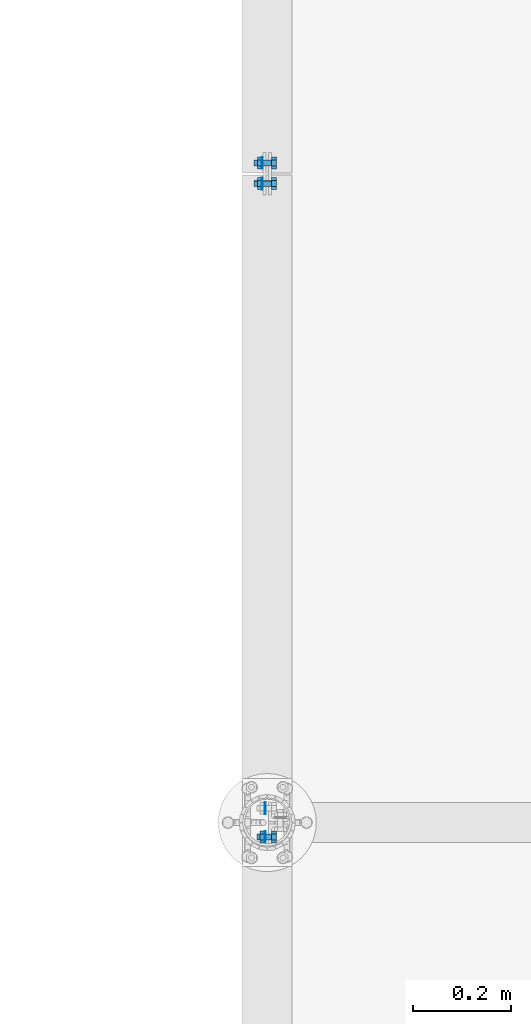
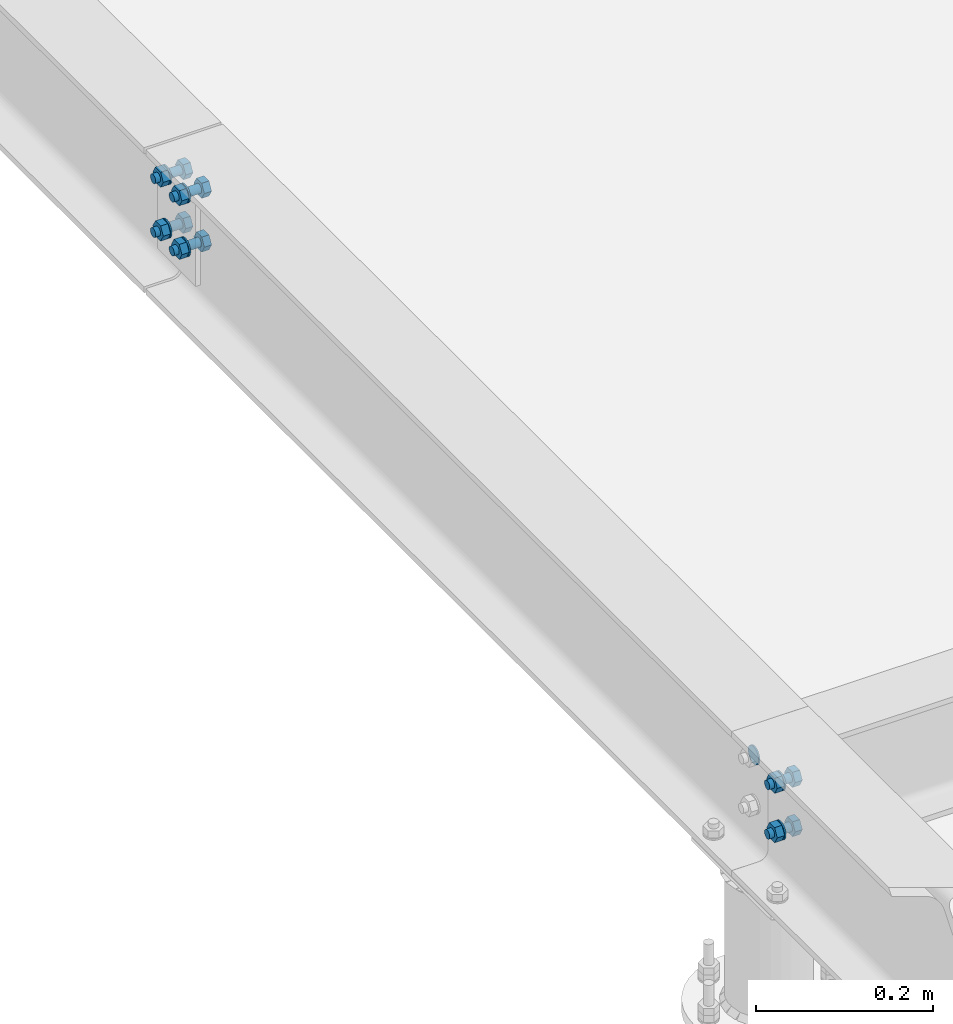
# One storey, part 27 of 84: 33 mechanical fasteners.
"""IFC4 building model written with IfcOpenShell, lengths in metres."""

from ifc_helpers import new_model, si_unit, frame, origin_with_axes, place, context, project, spatial, polyline, outline, extrude, type_object, element, save


model = new_model("IFC4")

# Units and contexts
model_context = context("Model", 3, precision=1e-05, world=origin_with_axes())
ifc_project = project(units=[si_unit("LENGTHUNIT", "METRE"), si_unit("AREAUNIT", "SQUARE_METRE"), si_unit("VOLUMEUNIT", "CUBIC_METRE"), si_unit("MASSUNIT", "GRAM", prefix="KILO"), si_unit("TIMEUNIT", "SECOND"), si_unit("PLANEANGLEUNIT", "RADIAN"), si_unit("SOLIDANGLEUNIT", "STERADIAN"), si_unit("THERMODYNAMICTEMPERATUREUNIT", "DEGREE_CELSIUS")], contexts=[model_context])

# Site, building, storey
placement_1 = place(None, origin_with_axes())
site = spatial("IfcSite", under=ifc_project, at=placement_1, Name="Italia", CompositionType="ELEMENT")
building = spatial("IfcBuilding", under=site, at=placement_1, Name="Tettoia", CompositionType="ELEMENT")
storey_placement = place(None, frame((0.0, 0.0, 4.199999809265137), z_axis=(0.0, 0.0, 1.0), x_axis=(1.0, 0.0, 0.0)))
storey = spatial("IfcBuildingStorey", under=building, at=storey_placement, Name="Storey 1", CompositionType="ELEMENT", Elevation=4.199999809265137)

# Mechanical fasteners
mechanical_fastener_type_1 = type_object("IfcMechanicalFastenerType", Name="Collegamento 0103_0104", PredefinedType="BOLT")
placement_2 = place(placement_1, origin_with_axes())
mechanical_fastener_1_placement = place(placement_2, origin_with_axes())
element("IfcMechanicalFastener", 1, at=mechanical_fastener_1_placement, inside=storey, type_object=mechanical_fastener_type_1, Name="Collegamento 0103_0104", NominalDiameter=0.024, context=model_context, shape_type="SweptSolid", body=[
    extrude(outline(polyline([(0.0, 0.0), (-0.000409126, -0.00310564), (-0.00160789, -0.00600004), (-0.00351477, -0.00848532), (-0.00600004, -0.0103922), (-0.00889444, -0.011591), (-0.0120001, -0.0120001), (-0.0151057, -0.011591), (-0.0180001, -0.0103922), (-0.0204854, -0.00848532), (-0.0223923, -0.00600004), (-0.023591, -0.00310564), (-0.0240002, 0.0), (-0.023591, 0.00310564), (-0.0223923, 0.00600004), (-0.0204854, 0.00848532), (-0.0180001, 0.0103922), (-0.0151057, 0.011591), (-0.0120001, 0.0120001), (-0.00889444, 0.011591), (-0.00600004, 0.0103922), (-0.00351477, 0.00848532), (-0.00160789, 0.00600004), (-0.000409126, 0.00310564), (0.0, 0.0)])), frame((8.2852, 4.6913, 4.334), z_axis=(1.0, 0.0, 0.0), x_axis=(0.0, 1.0, 0.0)), (0.0, 0.0, 1.0), 0.00199986),
])
mechanical_fastener_type_2 = type_object("IfcMechanicalFastenerType", Name="Collegamento 0103_0104", PredefinedType="BOLT")
mechanical_fastener_2_placement = place(placement_2, origin_with_axes())
element("IfcMechanicalFastener", 2, at=mechanical_fastener_2_placement, inside=storey, type_object=mechanical_fastener_type_2, Name="Collegamento 0103_0104", NominalDiameter=0.0119996, context=model_context, shape_type="SweptSolid", body=[
    extrude(outline(polyline([(0.0, 0.0), (-0.0119996, 0.0), (-0.0179996, 0.0103922), (-0.0119996, 0.0207844), (0.0, 0.0207844), (0.00600004, 0.0103922), (0.0, 0.0)])), frame((8.3084, 4.6147, 4.25561), z_axis=(-1.0, 0.0, 0.0), x_axis=(0.0, -1.0, 0.0)), (0.0, 0.0, 1.0), 0.00960064),
])
mechanical_fastener_type_3 = type_object("IfcMechanicalFastenerType", Name="Collegamento 0103_0104", PredefinedType="BOLT")
mechanical_fastener_3_placement = place(placement_2, origin_with_axes())
element("IfcMechanicalFastener", 3, at=mechanical_fastener_3_placement, inside=storey, type_object=mechanical_fastener_type_3, Name="Collegamento 0103_0104", NominalDiameter=0.012, context=model_context, shape_type="SweptSolid", body=[
    extrude(outline(polyline([(0.0, 0.0), (-0.000204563, -0.00155306), (-0.000803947, -0.00299978), (-0.00175762, -0.00424242), (-0.00300026, -0.00519609), (-0.00444698, -0.00579548), (-0.00600004, -0.00600004), (-0.0075531, -0.00579548), (-0.00899982, -0.00519609), (-0.0102425, -0.00424242), (-0.0111961, -0.00299978), (-0.0117955, -0.00155306), (-0.0120001, 0.0), (-0.0117955, 0.00155306), (-0.0111961, 0.00299978), (-0.0102425, 0.00424242), (-0.00899982, 0.00519609), (-0.0075531, 0.00579548), (-0.00600004, 0.00600004), (-0.00444698, 0.00579548), (-0.00300026, 0.00519609), (-0.00175762, 0.00424242), (-0.000803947, 0.00299978), (-0.000204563, 0.00155306), (0.0, 0.0)])), frame((8.2988, 4.6147, 4.266), z_axis=(-1.0, 0.0, 0.0), x_axis=(0.0, -1.0, 0.0)), (0.0, 0.0, 1.0), 0.0295992),
])
mechanical_fastener_type_4 = type_object("IfcMechanicalFastenerType", Name="Collegamento 0103_0104", PredefinedType="BOLT")
mechanical_fastener_4_placement = place(placement_2, origin_with_axes())
element("IfcMechanicalFastener", 4, at=mechanical_fastener_4_placement, inside=storey, type_object=mechanical_fastener_type_4, Name="Collegamento 0103_0104", NominalDiameter=0.0119996, context=model_context, shape_type="SweptSolid", body=[
    extrude(outline(polyline([(0.0, 0.0), (-0.0119996, 0.0), (-0.0179996, 0.0103922), (-0.0119996, 0.0207844), (0.0, 0.0207844), (0.00600004, 0.0103922), (0.0, 0.0)])), frame((8.2852, 4.6147, 4.25561), z_axis=(-1.0, 0.0, 0.0), x_axis=(0.0, -1.0, 0.0)), (0.0, 0.0, 1.0), 0.00960064),
])
mechanical_fastener_type_5 = type_object("IfcMechanicalFastenerType", Name="Collegamento 0103_0104", PredefinedType="BOLT")
mechanical_fastener_5_placement = place(placement_2, origin_with_axes())
element("IfcMechanicalFastener", 5, at=mechanical_fastener_5_placement, inside=storey, type_object=mechanical_fastener_type_5, Name="Collegamento 0103_0104", NominalDiameter=0.024, context=model_context, shape_type="SweptSolid", body=[
    extrude(outline(polyline([(0.0, 0.0), (-0.000409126, -0.00310564), (-0.00160789, -0.00600004), (-0.00351477, -0.00848532), (-0.00600004, -0.0103922), (-0.00889444, -0.011591), (-0.0120001, -0.0120001), (-0.0151057, -0.011591), (-0.0180001, -0.0103922), (-0.0204854, -0.00848532), (-0.0223923, -0.00600004), (-0.023591, -0.00310564), (-0.0240002, 0.0), (-0.023591, 0.00310564), (-0.0223923, 0.00600004), (-0.0204854, 0.00848532), (-0.0180001, 0.0103922), (-0.0151057, 0.011591), (-0.0120001, 0.0120001), (-0.00889444, 0.011591), (-0.00600004, 0.0103922), (-0.00351477, 0.00848532), (-0.00160789, 0.00600004), (-0.000409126, 0.00310564), (0.0, 0.0)])), frame((8.2872, 4.6087, 4.266), z_axis=(-1.0, 0.0, 0.0), x_axis=(0.0, -1.0, 0.0)), (0.0, 0.0, 1.0), 0.00199986),
])
mechanical_fastener_type_6 = type_object("IfcMechanicalFastenerType", Name="Collegamento 0103_0104", PredefinedType="BOLT")
mechanical_fastener_6_placement = place(placement_2, origin_with_axes())
element("IfcMechanicalFastener", 6, at=mechanical_fastener_6_placement, inside=storey, type_object=mechanical_fastener_type_6, Name="Collegamento 0103_0104", NominalDiameter=0.0119996, context=model_context, shape_type="SweptSolid", body=[
    extrude(outline(polyline([(0.0, 0.0), (-0.0119996, 0.0), (-0.0179996, 0.0103922), (-0.0119996, 0.0207844), (0.0, 0.0207844), (0.00600004, 0.0103922), (0.0, 0.0)])), frame((8.3084, 4.6147, 4.32361), z_axis=(-1.0, 0.0, 0.0), x_axis=(0.0, -1.0, 0.0)), (0.0, 0.0, 1.0), 0.00960064),
])
mechanical_fastener_type_7 = type_object("IfcMechanicalFastenerType", Name="Collegamento 0103_0104", PredefinedType="BOLT")
mechanical_fastener_7_placement = place(placement_2, origin_with_axes())
element("IfcMechanicalFastener", 7, at=mechanical_fastener_7_placement, inside=storey, type_object=mechanical_fastener_type_7, Name="Collegamento 0103_0104", NominalDiameter=0.012, context=model_context, shape_type="SweptSolid", body=[
    extrude(outline(polyline([(0.0, 0.0), (-0.000204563, -0.00155306), (-0.000803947, -0.00299978), (-0.00175762, -0.00424242), (-0.00300026, -0.00519609), (-0.00444698, -0.00579548), (-0.00600004, -0.00600004), (-0.0075531, -0.00579548), (-0.00899982, -0.00519609), (-0.0102425, -0.00424242), (-0.0111961, -0.00299978), (-0.0117955, -0.00155306), (-0.0120001, 0.0), (-0.0117955, 0.00155306), (-0.0111961, 0.00299978), (-0.0102425, 0.00424242), (-0.00899982, 0.00519609), (-0.0075531, 0.00579548), (-0.00600004, 0.00600004), (-0.00444698, 0.00579548), (-0.00300026, 0.00519609), (-0.00175762, 0.00424242), (-0.000803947, 0.00299978), (-0.000204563, 0.00155306), (0.0, 0.0)])), frame((8.2988, 4.6147, 4.334), z_axis=(-1.0, 0.0, 0.0), x_axis=(0.0, -1.0, 0.0)), (0.0, 0.0, 1.0), 0.0295992),
])
mechanical_fastener_type_8 = type_object("IfcMechanicalFastenerType", Name="Collegamento 0103_0104", PredefinedType="BOLT")
mechanical_fastener_8_placement = place(placement_2, origin_with_axes())
element("IfcMechanicalFastener", 8, at=mechanical_fastener_8_placement, inside=storey, type_object=mechanical_fastener_type_8, Name="Collegamento 0103_0104", NominalDiameter=0.0119996, context=model_context, shape_type="SweptSolid", body=[
    extrude(outline(polyline([(0.0, 0.0), (-0.0119996, 0.0), (-0.0179996, 0.0103922), (-0.0119996, 0.0207844), (0.0, 0.0207844), (0.00600004, 0.0103922), (0.0, 0.0)])), frame((8.2852, 4.6147, 4.32361), z_axis=(-1.0, 0.0, 0.0), x_axis=(0.0, -1.0, 0.0)), (0.0, 0.0, 1.0), 0.00960064),
])
mechanical_fastener_type_9 = type_object("IfcMechanicalFastenerType", Name="Collegamento 0103_0104", PredefinedType="BOLT")
mechanical_fastener_9_placement = place(placement_2, origin_with_axes())
element("IfcMechanicalFastener", 9, at=mechanical_fastener_9_placement, inside=storey, type_object=mechanical_fastener_type_9, Name="Collegamento 0103_0104", NominalDiameter=0.024, context=model_context, shape_type="SweptSolid", body=[
    extrude(outline(polyline([(0.0, 0.0), (-0.000409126, -0.00310564), (-0.00160789, -0.00600004), (-0.00351477, -0.00848532), (-0.00600004, -0.0103922), (-0.00889444, -0.011591), (-0.0120001, -0.0120001), (-0.0151057, -0.011591), (-0.0180001, -0.0103922), (-0.0204854, -0.00848532), (-0.0223923, -0.00600004), (-0.023591, -0.00310564), (-0.0240002, 0.0), (-0.023591, 0.00310564), (-0.0223923, 0.00600004), (-0.0204854, 0.00848532), (-0.0180001, 0.0103922), (-0.0151057, 0.011591), (-0.0120001, 0.0120001), (-0.00889444, 0.011591), (-0.00600004, 0.0103922), (-0.00351477, 0.00848532), (-0.00160789, 0.00600004), (-0.000409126, 0.00310564), (0.0, 0.0)])), frame((8.2872, 4.6087, 4.334), z_axis=(-1.0, 0.0, 0.0), x_axis=(0.0, -1.0, 0.0)), (0.0, 0.0, 1.0), 0.00199986),
])
mechanical_fastener_type_10 = type_object("IfcMechanicalFastenerType", Name="Collegamento 0118_0103", PredefinedType="BOLT")
mechanical_fastener_10_placement = place(placement_2, origin_with_axes())
element("IfcMechanicalFastener", 10, at=mechanical_fastener_10_placement, inside=storey, type_object=mechanical_fastener_type_10, Name="Collegamento 0118_0103", NominalDiameter=0.0119997, context=model_context, shape_type="SweptSolid", body=[
    extrude(outline(polyline([(0.0, 0.0), (0.0120001, 0.0), (0.0179996, -0.0103922), (0.0120001, -0.0207849), (0.0, -0.0207849), (-0.00600004, -0.0103922), (0.0, 0.0)])), frame((8.2988, 5.947, 4.34739), z_axis=(1.0, 0.0, 0.0), x_axis=(0.0, 1.0, 0.0)), (0.0, 0.0, 1.0), 0.00960064),
])
mechanical_fastener_type_11 = type_object("IfcMechanicalFastenerType", Name="Collegamento 0118_0103", PredefinedType="BOLT")
mechanical_fastener_11_placement = place(placement_2, origin_with_axes())
element("IfcMechanicalFastener", 11, at=mechanical_fastener_11_placement, inside=storey, type_object=mechanical_fastener_type_11, Name="Collegamento 0118_0103", NominalDiameter=0.012, context=model_context, shape_type="SweptSolid", body=[
    extrude(outline(polyline([(0.0, 0.0), (-0.000204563, -0.00155306), (-0.000803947, -0.00299978), (-0.00175762, -0.00424242), (-0.00300026, -0.00519609), (-0.00444698, -0.00579548), (-0.00600004, -0.00600004), (-0.0075531, -0.00579548), (-0.00899982, -0.00519609), (-0.0102425, -0.00424242), (-0.0111961, -0.00299978), (-0.0117955, -0.00155306), (-0.0120001, 0.0), (-0.0117955, 0.00155306), (-0.0111961, 0.00299978), (-0.0102425, 0.00424242), (-0.00899982, 0.00519609), (-0.0075531, 0.00579548), (-0.00600004, 0.00600004), (-0.00444698, 0.00579548), (-0.00300026, 0.00519609), (-0.00175762, 0.00424242), (-0.000803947, 0.00299978), (-0.000204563, 0.00155306), (0.0, 0.0)])), frame((8.2632, 5.959, 4.337), z_axis=(1.0, 0.0, 0.0), x_axis=(0.0, 1.0, 0.0)), (0.0, 0.0, 1.0), 0.0355997),
])
mechanical_fastener_type_12 = type_object("IfcMechanicalFastenerType", Name="Collegamento 0118_0103", PredefinedType="BOLT")
mechanical_fastener_12_placement = place(placement_2, origin_with_axes())
element("IfcMechanicalFastener", 12, at=mechanical_fastener_12_placement, inside=storey, type_object=mechanical_fastener_type_12, Name="Collegamento 0118_0103", NominalDiameter=0.0119997, context=model_context, shape_type="SweptSolid", body=[
    extrude(outline(polyline([(0.0, 0.0), (0.0120001, 0.0), (0.0179996, -0.0103922), (0.0120001, -0.0207849), (0.0, -0.0207849), (-0.00600004, -0.0103922), (0.0, 0.0)])), frame((8.2696, 5.947, 4.34739), z_axis=(1.0, 0.0, 0.0), x_axis=(0.0, 1.0, 0.0)), (0.0, 0.0, 1.0), 0.00959969),
])
mechanical_fastener_type_13 = type_object("IfcMechanicalFastenerType", Name="Collegamento 0118_0103", PredefinedType="BOLT")
mechanical_fastener_13_placement = place(placement_2, origin_with_axes())
element("IfcMechanicalFastener", 13, at=mechanical_fastener_13_placement, inside=storey, type_object=mechanical_fastener_type_13, Name="Collegamento 0118_0103", NominalDiameter=0.024, context=model_context, shape_type="SweptSolid", body=[
    extrude(outline(polyline([(0.0, 0.0), (-0.000409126, -0.00310564), (-0.00160789, -0.00600004), (-0.00351477, -0.00848532), (-0.00600004, -0.0103922), (-0.00889444, -0.011591), (-0.0120001, -0.0120001), (-0.0151057, -0.011591), (-0.0180001, -0.0103922), (-0.0204854, -0.00848532), (-0.0223923, -0.00600004), (-0.023591, -0.00310564), (-0.0240002, 0.0), (-0.023591, 0.00310564), (-0.0223923, 0.00600004), (-0.0204854, 0.00848532), (-0.0180001, 0.0103922), (-0.0151057, 0.011591), (-0.0120001, 0.0120001), (-0.00889444, 0.011591), (-0.00600004, 0.0103922), (-0.00351477, 0.00848532), (-0.00160789, 0.00600004), (-0.000409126, 0.00310564), (0.0, 0.0)])), frame((8.2792, 5.965, 4.337), z_axis=(1.0, 0.0, 0.0), x_axis=(0.0, 1.0, 0.0)), (0.0, 0.0, 1.0), 0.00200081),
])
mechanical_fastener_type_14 = type_object("IfcMechanicalFastenerType", Name="Collegamento 0118_0103", PredefinedType="BOLT")
mechanical_fastener_14_placement = place(placement_2, origin_with_axes())
element("IfcMechanicalFastener", 14, at=mechanical_fastener_14_placement, inside=storey, type_object=mechanical_fastener_type_14, Name="Collegamento 0118_0103", NominalDiameter=0.0119997, context=model_context, shape_type="SweptSolid", body=[
    extrude(outline(polyline([(0.0, 0.0), (0.0120001, 0.0), (0.0179996, -0.0103927), (0.0120001, -0.0207849), (0.0, -0.0207849), (-0.00600004, -0.0103927), (0.0, 0.0)])), frame((8.2988, 5.947, 4.27339), z_axis=(1.0, 0.0, 0.0), x_axis=(0.0, 1.0, 0.0)), (0.0, 0.0, 1.0), 0.00960064),
])
mechanical_fastener_type_15 = type_object("IfcMechanicalFastenerType", Name="Collegamento 0118_0103", PredefinedType="BOLT")
mechanical_fastener_15_placement = place(placement_2, origin_with_axes())
element("IfcMechanicalFastener", 15, at=mechanical_fastener_15_placement, inside=storey, type_object=mechanical_fastener_type_15, Name="Collegamento 0118_0103", NominalDiameter=0.012, context=model_context, shape_type="SweptSolid", body=[
    extrude(outline(polyline([(0.0, 0.0), (-0.000204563, -0.00155306), (-0.000803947, -0.00299978), (-0.00175762, -0.00424242), (-0.00300026, -0.00519609), (-0.00444698, -0.00579548), (-0.00600004, -0.00600004), (-0.0075531, -0.00579548), (-0.00899982, -0.00519609), (-0.0102425, -0.00424242), (-0.0111961, -0.00299978), (-0.0117955, -0.00155306), (-0.0120001, 0.0), (-0.0117955, 0.00155306), (-0.0111961, 0.00299978), (-0.0102425, 0.00424242), (-0.00899982, 0.00519609), (-0.0075531, 0.00579548), (-0.00600004, 0.00600004), (-0.00444698, 0.00579548), (-0.00300026, 0.00519609), (-0.00175762, 0.00424242), (-0.000803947, 0.00299978), (-0.000204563, 0.00155306), (0.0, 0.0)])), frame((8.2632, 5.959, 4.263), z_axis=(1.0, 0.0, 0.0), x_axis=(0.0, 1.0, 0.0)), (0.0, 0.0, 1.0), 0.0355997),
])
mechanical_fastener_type_16 = type_object("IfcMechanicalFastenerType", Name="Collegamento 0118_0103", PredefinedType="BOLT")
mechanical_fastener_16_placement = place(placement_2, origin_with_axes())
element("IfcMechanicalFastener", 16, at=mechanical_fastener_16_placement, inside=storey, type_object=mechanical_fastener_type_16, Name="Collegamento 0118_0103", NominalDiameter=0.0119997, context=model_context, shape_type="SweptSolid", body=[
    extrude(outline(polyline([(0.0, 0.0), (0.0120001, 0.0), (0.0179996, -0.0103927), (0.0120001, -0.0207849), (0.0, -0.0207849), (-0.00600004, -0.0103927), (0.0, 0.0)])), frame((8.2696, 5.947, 4.27339), z_axis=(1.0, 0.0, 0.0), x_axis=(0.0, 1.0, 0.0)), (0.0, 0.0, 1.0), 0.00959969),
])
mechanical_fastener_type_17 = type_object("IfcMechanicalFastenerType", Name="Collegamento 0118_0103", PredefinedType="BOLT")
mechanical_fastener_17_placement = place(placement_2, origin_with_axes())
element("IfcMechanicalFastener", 17, at=mechanical_fastener_17_placement, inside=storey, type_object=mechanical_fastener_type_17, Name="Collegamento 0118_0103", NominalDiameter=0.024, context=model_context, shape_type="SweptSolid", body=[
    extrude(outline(polyline([(0.0, 0.0), (-0.000409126, -0.00310564), (-0.00160789, -0.00600004), (-0.00351477, -0.00848532), (-0.00600004, -0.0103922), (-0.00889444, -0.011591), (-0.0120001, -0.0120001), (-0.0151057, -0.011591), (-0.0180001, -0.0103922), (-0.0204854, -0.00848532), (-0.0223923, -0.00600004), (-0.023591, -0.00310564), (-0.0240002, 0.0), (-0.023591, 0.00310564), (-0.0223923, 0.00600004), (-0.0204854, 0.00848532), (-0.0180001, 0.0103922), (-0.0151057, 0.011591), (-0.0120001, 0.0120001), (-0.00889444, 0.011591), (-0.00600004, 0.0103922), (-0.00351477, 0.00848532), (-0.00160789, 0.00600004), (-0.000409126, 0.00310564), (0.0, 0.0)])), frame((8.2792, 5.965, 4.263), z_axis=(1.0, 0.0, 0.0), x_axis=(0.0, 1.0, 0.0)), (0.0, 0.0, 1.0), 0.00200081),
])
mechanical_fastener_type_18 = type_object("IfcMechanicalFastenerType", Name="Collegamento 0118_0103", PredefinedType="BOLT")
mechanical_fastener_18_placement = place(placement_2, origin_with_axes())
element("IfcMechanicalFastener", 18, at=mechanical_fastener_18_placement, inside=storey, type_object=mechanical_fastener_type_18, Name="Collegamento 0118_0103", NominalDiameter=0.0119997, context=model_context, shape_type="SweptSolid", body=[
    extrude(outline(polyline([(0.0, 0.0), (0.0120001, 0.0), (0.0179996, -0.0103922), (0.0120001, -0.0207849), (0.0, -0.0207849), (-0.00600004, -0.0103922), (0.0, 0.0)])), frame((8.2988, 5.947, 4.34739), z_axis=(1.0, 0.0, 0.0), x_axis=(0.0, 1.0, 0.0)), (0.0, 0.0, 1.0), 0.00960064),
])
mechanical_fastener_type_19 = type_object("IfcMechanicalFastenerType", Name="Collegamento 0118_0103", PredefinedType="BOLT")
mechanical_fastener_19_placement = place(placement_2, origin_with_axes())
element("IfcMechanicalFastener", 19, at=mechanical_fastener_19_placement, inside=storey, type_object=mechanical_fastener_type_19, Name="Collegamento 0118_0103", NominalDiameter=0.012, context=model_context, shape_type="SweptSolid", body=[
    extrude(outline(polyline([(0.0, 0.0), (-0.000204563, -0.00155306), (-0.000803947, -0.00299978), (-0.00175762, -0.00424242), (-0.00300026, -0.00519609), (-0.00444698, -0.00579548), (-0.00600004, -0.00600004), (-0.0075531, -0.00579548), (-0.00899982, -0.00519609), (-0.0102425, -0.00424242), (-0.0111961, -0.00299978), (-0.0117955, -0.00155306), (-0.0120001, 0.0), (-0.0117955, 0.00155306), (-0.0111961, 0.00299978), (-0.0102425, 0.00424242), (-0.00899982, 0.00519609), (-0.0075531, 0.00579548), (-0.00600004, 0.00600004), (-0.00444698, 0.00579548), (-0.00300026, 0.00519609), (-0.00175762, 0.00424242), (-0.000803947, 0.00299978), (-0.000204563, 0.00155306), (0.0, 0.0)])), frame((8.2632, 5.959, 4.337), z_axis=(1.0, 0.0, 0.0), x_axis=(0.0, 1.0, 0.0)), (0.0, 0.0, 1.0), 0.0355997),
])
mechanical_fastener_type_20 = type_object("IfcMechanicalFastenerType", Name="Collegamento 0118_0103", PredefinedType="BOLT")
mechanical_fastener_20_placement = place(placement_2, origin_with_axes())
element("IfcMechanicalFastener", 20, at=mechanical_fastener_20_placement, inside=storey, type_object=mechanical_fastener_type_20, Name="Collegamento 0118_0103", NominalDiameter=0.0119997, context=model_context, shape_type="SweptSolid", body=[
    extrude(outline(polyline([(0.0, 0.0), (0.0120001, 0.0), (0.0179996, -0.0103922), (0.0120001, -0.0207849), (0.0, -0.0207849), (-0.00600004, -0.0103922), (0.0, 0.0)])), frame((8.2696, 5.947, 4.34739), z_axis=(1.0, 0.0, 0.0), x_axis=(0.0, 1.0, 0.0)), (0.0, 0.0, 1.0), 0.00959969),
])
mechanical_fastener_type_21 = type_object("IfcMechanicalFastenerType", Name="Collegamento 0118_0103", PredefinedType="BOLT")
mechanical_fastener_21_placement = place(placement_2, origin_with_axes())
element("IfcMechanicalFastener", 21, at=mechanical_fastener_21_placement, inside=storey, type_object=mechanical_fastener_type_21, Name="Collegamento 0118_0103", NominalDiameter=0.024, context=model_context, shape_type="SweptSolid", body=[
    extrude(outline(polyline([(0.0, 0.0), (-0.000409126, -0.00310564), (-0.00160789, -0.00600004), (-0.00351477, -0.00848532), (-0.00600004, -0.0103922), (-0.00889444, -0.011591), (-0.0120001, -0.0120001), (-0.0151057, -0.011591), (-0.0180001, -0.0103922), (-0.0204854, -0.00848532), (-0.0223923, -0.00600004), (-0.023591, -0.00310564), (-0.0240002, 0.0), (-0.023591, 0.00310564), (-0.0223923, 0.00600004), (-0.0204854, 0.00848532), (-0.0180001, 0.0103922), (-0.0151057, 0.011591), (-0.0120001, 0.0120001), (-0.00889444, 0.011591), (-0.00600004, 0.0103922), (-0.00351477, 0.00848532), (-0.00160789, 0.00600004), (-0.000409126, 0.00310564), (0.0, 0.0)])), frame((8.2792, 5.965, 4.337), z_axis=(1.0, 0.0, 0.0), x_axis=(0.0, 1.0, 0.0)), (0.0, 0.0, 1.0), 0.00200081),
])
mechanical_fastener_type_22 = type_object("IfcMechanicalFastenerType", Name="Collegamento 0118_0103", PredefinedType="BOLT")
mechanical_fastener_22_placement = place(placement_2, origin_with_axes())
element("IfcMechanicalFastener", 22, at=mechanical_fastener_22_placement, inside=storey, type_object=mechanical_fastener_type_22, Name="Collegamento 0118_0103", NominalDiameter=0.0119997, context=model_context, shape_type="SweptSolid", body=[
    extrude(outline(polyline([(0.0, 0.0), (0.0120001, 0.0), (0.0179996, -0.0103927), (0.0120001, -0.0207849), (0.0, -0.0207849), (-0.00600004, -0.0103927), (0.0, 0.0)])), frame((8.2988, 5.947, 4.27339), z_axis=(1.0, 0.0, 0.0), x_axis=(0.0, 1.0, 0.0)), (0.0, 0.0, 1.0), 0.00960064),
])
mechanical_fastener_type_23 = type_object("IfcMechanicalFastenerType", Name="Collegamento 0118_0103", PredefinedType="BOLT")
mechanical_fastener_23_placement = place(placement_2, origin_with_axes())
element("IfcMechanicalFastener", 23, at=mechanical_fastener_23_placement, inside=storey, type_object=mechanical_fastener_type_23, Name="Collegamento 0118_0103", NominalDiameter=0.012, context=model_context, shape_type="SweptSolid", body=[
    extrude(outline(polyline([(0.0, 0.0), (-0.000204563, -0.00155306), (-0.000803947, -0.00299978), (-0.00175762, -0.00424242), (-0.00300026, -0.00519609), (-0.00444698, -0.00579548), (-0.00600004, -0.00600004), (-0.0075531, -0.00579548), (-0.00899982, -0.00519609), (-0.0102425, -0.00424242), (-0.0111961, -0.00299978), (-0.0117955, -0.00155306), (-0.0120001, 0.0), (-0.0117955, 0.00155306), (-0.0111961, 0.00299978), (-0.0102425, 0.00424242), (-0.00899982, 0.00519609), (-0.0075531, 0.00579548), (-0.00600004, 0.00600004), (-0.00444698, 0.00579548), (-0.00300026, 0.00519609), (-0.00175762, 0.00424242), (-0.000803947, 0.00299978), (-0.000204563, 0.00155306), (0.0, 0.0)])), frame((8.2632, 5.959, 4.263), z_axis=(1.0, 0.0, 0.0), x_axis=(0.0, 1.0, 0.0)), (0.0, 0.0, 1.0), 0.0355997),
])
mechanical_fastener_type_24 = type_object("IfcMechanicalFastenerType", Name="Collegamento 0118_0103", PredefinedType="BOLT")
mechanical_fastener_24_placement = place(placement_2, origin_with_axes())
element("IfcMechanicalFastener", 24, at=mechanical_fastener_24_placement, inside=storey, type_object=mechanical_fastener_type_24, Name="Collegamento 0118_0103", NominalDiameter=0.0119997, context=model_context, shape_type="SweptSolid", body=[
    extrude(outline(polyline([(0.0, 0.0), (0.0120001, 0.0), (0.0179996, -0.0103927), (0.0120001, -0.0207849), (0.0, -0.0207849), (-0.00600004, -0.0103927), (0.0, 0.0)])), frame((8.2696, 5.947, 4.27339), z_axis=(1.0, 0.0, 0.0), x_axis=(0.0, 1.0, 0.0)), (0.0, 0.0, 1.0), 0.00959969),
])
mechanical_fastener_type_25 = type_object("IfcMechanicalFastenerType", Name="Collegamento 0118_0103", PredefinedType="BOLT")
mechanical_fastener_25_placement = place(placement_2, origin_with_axes())
element("IfcMechanicalFastener", 25, at=mechanical_fastener_25_placement, inside=storey, type_object=mechanical_fastener_type_25, Name="Collegamento 0118_0103", NominalDiameter=0.024, context=model_context, shape_type="SweptSolid", body=[
    extrude(outline(polyline([(0.0, 0.0), (-0.000409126, -0.00310564), (-0.00160789, -0.00600004), (-0.00351477, -0.00848532), (-0.00600004, -0.0103922), (-0.00889444, -0.011591), (-0.0120001, -0.0120001), (-0.0151057, -0.011591), (-0.0180001, -0.0103922), (-0.0204854, -0.00848532), (-0.0223923, -0.00600004), (-0.023591, -0.00310564), (-0.0240002, 0.0), (-0.023591, 0.00310564), (-0.0223923, 0.00600004), (-0.0204854, 0.00848532), (-0.0180001, 0.0103922), (-0.0151057, 0.011591), (-0.0120001, 0.0120001), (-0.00889444, 0.011591), (-0.00600004, 0.0103922), (-0.00351477, 0.00848532), (-0.00160789, 0.00600004), (-0.000409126, 0.00310564), (0.0, 0.0)])), frame((8.2792, 5.965, 4.263), z_axis=(1.0, 0.0, 0.0), x_axis=(0.0, 1.0, 0.0)), (0.0, 0.0, 1.0), 0.00200081),
])
mechanical_fastener_type_26 = type_object("IfcMechanicalFastenerType", Name="Collegamento 0118_0103", PredefinedType="BOLT")
mechanical_fastener_26_placement = place(placement_2, origin_with_axes())
element("IfcMechanicalFastener", 26, at=mechanical_fastener_26_placement, inside=storey, type_object=mechanical_fastener_type_26, Name="Collegamento 0118_0103", NominalDiameter=0.0119999, context=model_context, shape_type="SweptSolid", body=[
    extrude(outline(polyline([(0.0, 0.0), (0.0120001, 0.0), (0.0180001, -0.0103922), (0.0120001, -0.0207849), (0.0, -0.0207849), (-0.00600004, -0.0103922), (0.0, 0.0)])), frame((8.2988, 5.989, 4.34739), z_axis=(1.0, 0.0, 0.0), x_axis=(0.0, 1.0, 0.0)), (0.0, 0.0, 1.0), 0.00960064),
])
mechanical_fastener_type_27 = type_object("IfcMechanicalFastenerType", Name="Collegamento 0118_0103", PredefinedType="BOLT")
mechanical_fastener_27_placement = place(placement_2, origin_with_axes())
element("IfcMechanicalFastener", 27, at=mechanical_fastener_27_placement, inside=storey, type_object=mechanical_fastener_type_27, Name="Collegamento 0118_0103", NominalDiameter=0.012, context=model_context, shape_type="SweptSolid", body=[
    extrude(outline(polyline([(0.0, 0.0), (-0.000204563, -0.00155306), (-0.000803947, -0.00299978), (-0.00175762, -0.00424242), (-0.00300026, -0.00519609), (-0.00444698, -0.00579548), (-0.00600004, -0.00600004), (-0.0075531, -0.00579548), (-0.00899982, -0.00519609), (-0.0102425, -0.00424242), (-0.0111961, -0.00299978), (-0.0117955, -0.00155306), (-0.0120001, 0.0), (-0.0117955, 0.00155306), (-0.0111961, 0.00299978), (-0.0102425, 0.00424242), (-0.00899982, 0.00519609), (-0.0075531, 0.00579548), (-0.00600004, 0.00600004), (-0.00444698, 0.00579548), (-0.00300026, 0.00519609), (-0.00175762, 0.00424242), (-0.000803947, 0.00299978), (-0.000204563, 0.00155306), (0.0, 0.0)])), frame((8.2632, 6.001, 4.337), z_axis=(1.0, 0.0, 0.0), x_axis=(0.0, 1.0, 0.0)), (0.0, 0.0, 1.0), 0.0355997),
])
mechanical_fastener_type_28 = type_object("IfcMechanicalFastenerType", Name="Collegamento 0118_0103", PredefinedType="BOLT")
mechanical_fastener_28_placement = place(placement_2, origin_with_axes())
element("IfcMechanicalFastener", 28, at=mechanical_fastener_28_placement, inside=storey, type_object=mechanical_fastener_type_28, Name="Collegamento 0118_0103", NominalDiameter=0.0119999, context=model_context, shape_type="SweptSolid", body=[
    extrude(outline(polyline([(0.0, 0.0), (0.0120001, 0.0), (0.0180001, -0.0103922), (0.0120001, -0.0207849), (0.0, -0.0207849), (-0.00600004, -0.0103922), (0.0, 0.0)])), frame((8.2696, 5.989, 4.34739), z_axis=(1.0, 0.0, 0.0), x_axis=(0.0, 1.0, 0.0)), (0.0, 0.0, 1.0), 0.00959969),
])
mechanical_fastener_type_29 = type_object("IfcMechanicalFastenerType", Name="Collegamento 0118_0103", PredefinedType="BOLT")
mechanical_fastener_29_placement = place(placement_2, origin_with_axes())
element("IfcMechanicalFastener", 29, at=mechanical_fastener_29_placement, inside=storey, type_object=mechanical_fastener_type_29, Name="Collegamento 0118_0103", NominalDiameter=0.024, context=model_context, shape_type="SweptSolid", body=[
    extrude(outline(polyline([(0.0, 0.0), (-0.000409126, -0.00310564), (-0.00160789, -0.00600004), (-0.00351477, -0.00848532), (-0.00600004, -0.0103922), (-0.00889444, -0.011591), (-0.0120001, -0.0120001), (-0.0151057, -0.011591), (-0.0180001, -0.0103922), (-0.0204854, -0.00848532), (-0.0223923, -0.00600004), (-0.023591, -0.00310564), (-0.0240002, 0.0), (-0.023591, 0.00310564), (-0.0223923, 0.00600004), (-0.0204854, 0.00848532), (-0.0180001, 0.0103922), (-0.0151057, 0.011591), (-0.0120001, 0.0120001), (-0.00889444, 0.011591), (-0.00600004, 0.0103922), (-0.00351477, 0.00848532), (-0.00160789, 0.00600004), (-0.000409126, 0.00310564), (0.0, 0.0)])), frame((8.2792, 6.007, 4.337), z_axis=(1.0, 0.0, 0.0), x_axis=(0.0, 1.0, 0.0)), (0.0, 0.0, 1.0), 0.00200081),
])
mechanical_fastener_type_30 = type_object("IfcMechanicalFastenerType", Name="Collegamento 0118_0103", PredefinedType="BOLT")
mechanical_fastener_30_placement = place(placement_2, origin_with_axes())
element("IfcMechanicalFastener", 30, at=mechanical_fastener_30_placement, inside=storey, type_object=mechanical_fastener_type_30, Name="Collegamento 0118_0103", NominalDiameter=0.0119999, context=model_context, shape_type="SweptSolid", body=[
    extrude(outline(polyline([(0.0, 0.0), (0.0120001, 0.0), (0.0180001, -0.0103927), (0.0120001, -0.0207849), (0.0, -0.0207849), (-0.00600004, -0.0103927), (0.0, 0.0)])), frame((8.2988, 5.989, 4.27339), z_axis=(1.0, 0.0, 0.0), x_axis=(0.0, 1.0, 0.0)), (0.0, 0.0, 1.0), 0.00960064),
])
mechanical_fastener_type_31 = type_object("IfcMechanicalFastenerType", Name="Collegamento 0118_0103", PredefinedType="BOLT")
mechanical_fastener_31_placement = place(placement_2, origin_with_axes())
element("IfcMechanicalFastener", 31, at=mechanical_fastener_31_placement, inside=storey, type_object=mechanical_fastener_type_31, Name="Collegamento 0118_0103", NominalDiameter=0.012, context=model_context, shape_type="SweptSolid", body=[
    extrude(outline(polyline([(0.0, 0.0), (-0.000204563, -0.00155306), (-0.000803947, -0.00299978), (-0.00175762, -0.00424242), (-0.00300026, -0.00519609), (-0.00444698, -0.00579548), (-0.00600004, -0.00600004), (-0.0075531, -0.00579548), (-0.00899982, -0.00519609), (-0.0102425, -0.00424242), (-0.0111961, -0.00299978), (-0.0117955, -0.00155306), (-0.0120001, 0.0), (-0.0117955, 0.00155306), (-0.0111961, 0.00299978), (-0.0102425, 0.00424242), (-0.00899982, 0.00519609), (-0.0075531, 0.00579548), (-0.00600004, 0.00600004), (-0.00444698, 0.00579548), (-0.00300026, 0.00519609), (-0.00175762, 0.00424242), (-0.000803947, 0.00299978), (-0.000204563, 0.00155306), (0.0, 0.0)])), frame((8.2632, 6.001, 4.263), z_axis=(1.0, 0.0, 0.0), x_axis=(0.0, 1.0, 0.0)), (0.0, 0.0, 1.0), 0.0355997),
])
mechanical_fastener_type_32 = type_object("IfcMechanicalFastenerType", Name="Collegamento 0118_0103", PredefinedType="BOLT")
mechanical_fastener_32_placement = place(placement_2, origin_with_axes())
element("IfcMechanicalFastener", 32, at=mechanical_fastener_32_placement, inside=storey, type_object=mechanical_fastener_type_32, Name="Collegamento 0118_0103", NominalDiameter=0.0119999, context=model_context, shape_type="SweptSolid", body=[
    extrude(outline(polyline([(0.0, 0.0), (0.0120001, 0.0), (0.0180001, -0.0103927), (0.0120001, -0.0207849), (0.0, -0.0207849), (-0.00600004, -0.0103927), (0.0, 0.0)])), frame((8.2696, 5.989, 4.27339), z_axis=(1.0, 0.0, 0.0), x_axis=(0.0, 1.0, 0.0)), (0.0, 0.0, 1.0), 0.00959969),
])
mechanical_fastener_type_33 = type_object("IfcMechanicalFastenerType", Name="Collegamento 0118_0103", PredefinedType="BOLT")
mechanical_fastener_33_placement = place(placement_2, origin_with_axes())
element("IfcMechanicalFastener", 33, at=mechanical_fastener_33_placement, inside=storey, type_object=mechanical_fastener_type_33, Name="Collegamento 0118_0103", NominalDiameter=0.024, context=model_context, shape_type="SweptSolid", body=[
    extrude(outline(polyline([(0.0, 0.0), (-0.000409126, -0.00310564), (-0.00160789, -0.00600004), (-0.00351477, -0.00848532), (-0.00600004, -0.0103922), (-0.00889444, -0.011591), (-0.0120001, -0.0120001), (-0.0151057, -0.011591), (-0.0180001, -0.0103922), (-0.0204854, -0.00848532), (-0.0223923, -0.00600004), (-0.023591, -0.00310564), (-0.0240002, 0.0), (-0.023591, 0.00310564), (-0.0223923, 0.00600004), (-0.0204854, 0.00848532), (-0.0180001, 0.0103922), (-0.0151057, 0.011591), (-0.0120001, 0.0120001), (-0.00889444, 0.011591), (-0.00600004, 0.0103922), (-0.00351477, 0.00848532), (-0.00160789, 0.00600004), (-0.000409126, 0.00310564), (0.0, 0.0)])), frame((8.2792, 6.007, 4.263), z_axis=(1.0, 0.0, 0.0), x_axis=(0.0, 1.0, 0.0)), (0.0, 0.0, 1.0), 0.00200081),
])

save(model, "model.ifc")
